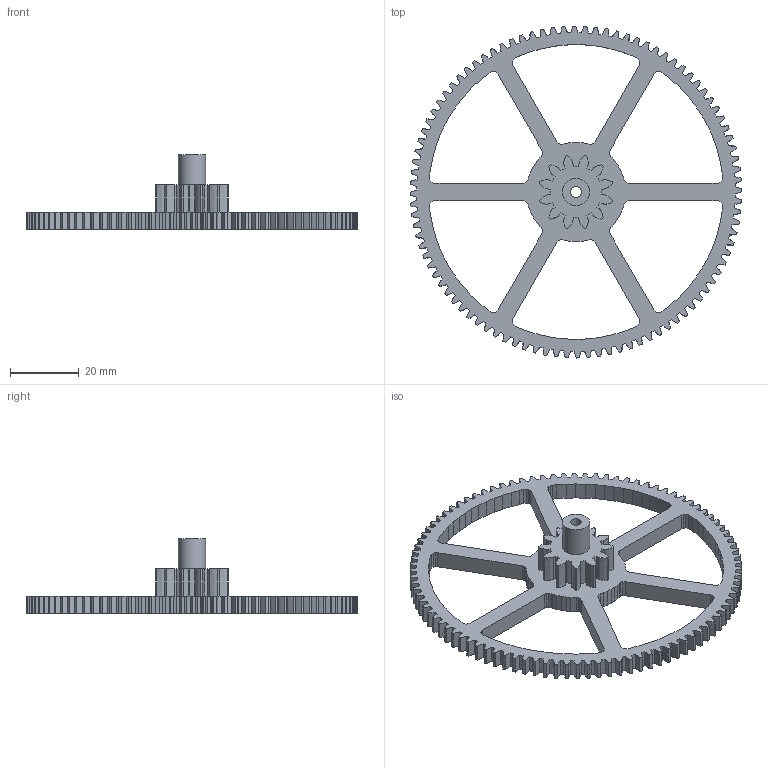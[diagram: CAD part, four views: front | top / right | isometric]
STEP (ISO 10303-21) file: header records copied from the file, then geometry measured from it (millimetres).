
FILE_DESCRIPTION(('Open CASCADE Model'),'2;1');
FILE_NAME('Open CASCADE Shape Model','2026-10-12T22:10:15',('Author'),( 'Open CASCADE'),'Open CASCADE STEP processor 7.9','Open CASCADE 7.9' ,'Unknown');
FILE_SCHEMA(('AUTOMOTIVE_DESIGN { 1 0 10303 214 1 1 1 1 }'));
Products named in the file (1): Open CASCADE STEP translator 7.9 11
Bounding box: 96.91 x 96.91 x 21.8 mm (x, y, z)
Volume: 16326.5 mm3; surface area: 12919.2 mm2
Topology: 1 solids, 1 shells, 678 faces, 2022 edges, 1348 vertices
Faces by surface type: plane 244, cylinder 218, extrusion 216
Full cylindrical faces by diameter (mm): 3.2 x1, 8 x1
Entity records: 54878 total; most frequent: CARTESIAN_POINT 15653, DIRECTION 6780, VECTOR 4546, LINE 4330, ORIENTED_EDGE 4044, PCURVE 4044, DEFINITIONAL_REPRESENTATION 4044, EDGE_CURVE 2022
